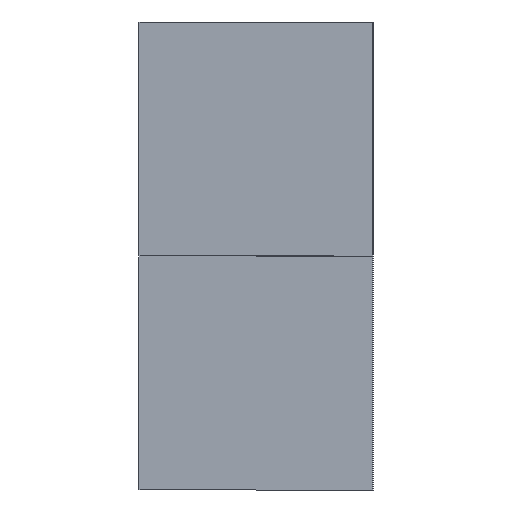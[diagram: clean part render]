
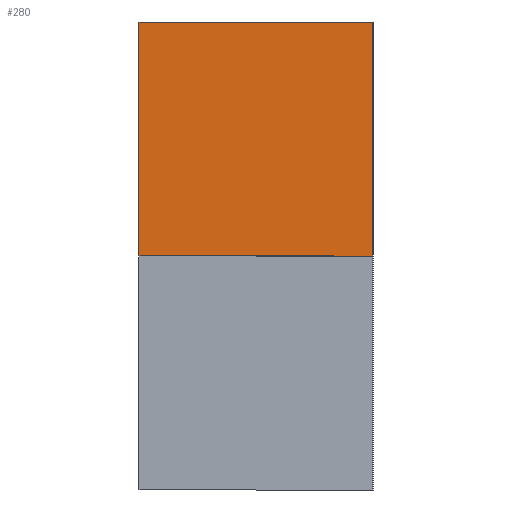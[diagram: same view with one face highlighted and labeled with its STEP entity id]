
A CAD part, left-side view. The second image highlights one B-rep face of the part: STEP entity #280.
In plain terms, the highlighted planar face has unit normal (-1, 0, 0).
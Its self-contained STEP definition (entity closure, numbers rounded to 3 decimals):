
#2 = VERTEX_POINT ( 'NONE', #217 ) ;
#4 = CARTESIAN_POINT ( 'NONE',  ( -417., 0., 0. ) ) ;
#7 = VECTOR ( 'NONE', #188, 1000. ) ;
#19 = LINE ( 'NONE', #380, #7 ) ;
#39 = DIRECTION ( 'NONE',  ( 1., 0., 0. ) ) ;
#42 = CARTESIAN_POINT ( 'NONE',  ( -417., -10., -10. ) ) ;
#47 = DIRECTION ( 'NONE',  ( 0., -1., 0. ) ) ;
#48 = VECTOR ( 'NONE', #247, 1000. ) ;
#67 = CARTESIAN_POINT ( 'NONE',  ( -417., 10., 10. ) ) ;
#119 = VERTEX_POINT ( 'NONE', #42 ) ;
#124 = CARTESIAN_POINT ( 'NONE',  ( -417., 10., 10. ) ) ;
#154 = LINE ( 'NONE', #181, #262 ) ;
#172 = ORIENTED_EDGE ( 'NONE', *, *, #324, .F. ) ;
#175 = VECTOR ( 'NONE', #47, 1000. ) ;
#178 = ORIENTED_EDGE ( 'NONE', *, *, #232, .F. ) ;
#181 = CARTESIAN_POINT ( 'NONE',  ( -417., 10., -10. ) ) ;
#188 = DIRECTION ( 'NONE',  ( 0., 0., -1. ) ) ;
#191 = AXIS2_PLACEMENT_3D ( 'NONE', #4, #39, #365 ) ;
#209 = ORIENTED_EDGE ( 'NONE', *, *, #227, .F. ) ;
#217 = CARTESIAN_POINT ( 'NONE',  ( -417., -10., 10. ) ) ;
#219 = PLANE ( 'NONE',  #191 ) ;
#227 = EDGE_CURVE ( 'NONE', #241, #246, #333, .T. ) ;
#232 = EDGE_CURVE ( 'NONE', #119, #241, #154, .T. ) ;
#241 = VERTEX_POINT ( 'NONE', #336 ) ;
#246 = VERTEX_POINT ( 'NONE', #124 ) ;
#247 = DIRECTION ( 'NONE',  ( 0., 0., 1. ) ) ;
#262 = VECTOR ( 'NONE', #339, 1000. ) ;
#274 = FACE_OUTER_BOUND ( 'NONE', #361, .T. ) ;
#280 = ADVANCED_FACE ( 'NONE', ( #274 ), #219, .F. ) ;
#311 = CARTESIAN_POINT ( 'NONE',  ( -417., 10., 10. ) ) ;
#312 = EDGE_CURVE ( 'NONE', #246, #2, #368, .T. ) ;
#324 = EDGE_CURVE ( 'NONE', #2, #119, #19, .T. ) ;
#333 = LINE ( 'NONE', #67, #48 ) ;
#336 = CARTESIAN_POINT ( 'NONE',  ( -417., 10., -10. ) ) ;
#337 = ORIENTED_EDGE ( 'NONE', *, *, #312, .F. ) ;
#339 = DIRECTION ( 'NONE',  ( 0., 1., 0. ) ) ;
#361 = EDGE_LOOP ( 'NONE', ( #178, #172, #337, #209 ) ) ;
#365 = DIRECTION ( 'NONE',  ( 0., 0., -1. ) ) ;
#368 = LINE ( 'NONE', #311, #175 ) ;
#380 = CARTESIAN_POINT ( 'NONE',  ( -417., -10., 10. ) ) ;
